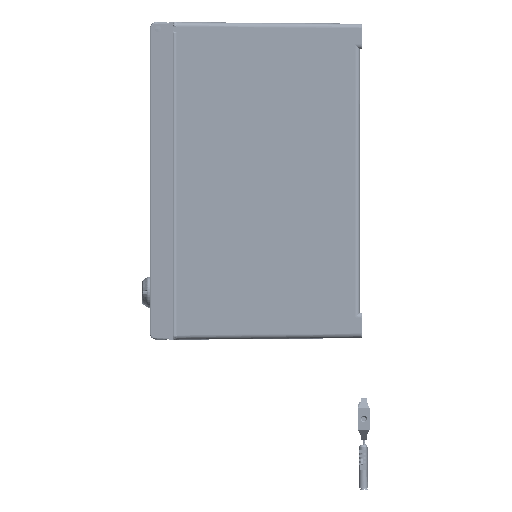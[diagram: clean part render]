
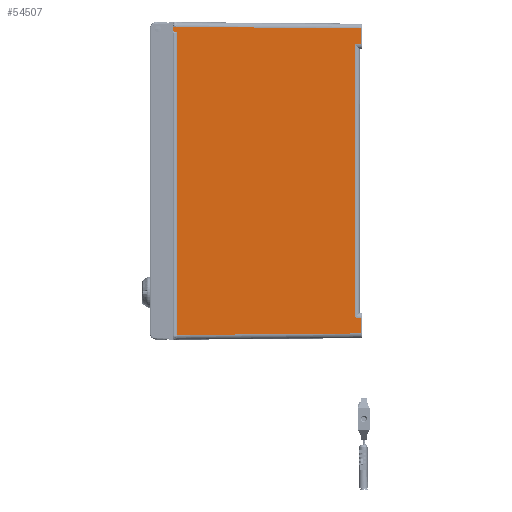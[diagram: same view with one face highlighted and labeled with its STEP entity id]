
A CAD part, left-side view. The second image highlights one B-rep face of the part: STEP entity #54507.
In plain terms, the highlighted planar face has unit normal (-1, -0.018, 0).
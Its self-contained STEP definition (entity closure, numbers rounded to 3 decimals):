
#6030=FACE_OUTER_BOUND('',#9534,.T.);
#9534=EDGE_LOOP('',(#37594,#37595,#37596,#37597,#37598,#37599,#37600,#37601,
#37602,#37603,#37604,#37605));
#13151=B_SPLINE_CURVE_WITH_KNOTS('',3,(#90950,#90951,#90952,#90953,#90954,
#90955,#90956,#90957,#90958,#90959,#90960,#90961,#90962,#90963,#90964,#90965,
#90966,#90967,#90968,#90969,#90970,#90971,#90972,#90973,#90974,#90975,#90976,
#90977,#90978,#90979,#90980,#90981,#90982,#90983,#90984,#90985,#90986,#90987,
#90988,#90989,#90990,#90991,#90992),.UNSPECIFIED.,.F.,.F.,(4,3,3,3,3,3,
3,3,3,3,3,3,3,3,4),(0.,0.071,0.143,0.214,
0.286,0.357,0.429,0.5,0.571,0.643,
0.714,0.786,0.857,0.929,1.),
 .UNSPECIFIED.);
#15609=LINE('',#89324,#19183);
#15629=LINE('',#90945,#19203);
#15630=LINE('',#90948,#19204);
#15631=LINE('',#90994,#19205);
#15632=LINE('',#90996,#19206);
#15633=LINE('',#90998,#19207);
#15634=LINE('',#91000,#19208);
#15635=LINE('',#91002,#19209);
#15636=LINE('',#91003,#19210);
#15637=LINE('',#91005,#19211);
#15638=LINE('',#91006,#19212);
#19183=VECTOR('',#65245,14.936);
#19203=VECTOR('',#65357,4.09);
#19204=VECTOR('',#65360,5.528);
#19205=VECTOR('',#65361,284.949);
#19206=VECTOR('',#65362,173.612);
#19207=VECTOR('',#65363,14.936);
#19208=VECTOR('',#65364,5.441);
#19209=VECTOR('',#65365,257.78);
#19210=VECTOR('',#65366,5.441);
#19211=VECTOR('',#65367,173.618);
#19212=VECTOR('',#65368,9.453);
#22952=VERTEX_POINT('',#89319);
#22953=VERTEX_POINT('',#89323);
#22983=VERTEX_POINT('',#90750);
#22990=VERTEX_POINT('',#90941);
#22991=VERTEX_POINT('',#90947);
#22992=VERTEX_POINT('',#90949);
#22993=VERTEX_POINT('',#90993);
#22994=VERTEX_POINT('',#90995);
#22995=VERTEX_POINT('',#90997);
#22996=VERTEX_POINT('',#90999);
#22997=VERTEX_POINT('',#91001);
#22998=VERTEX_POINT('',#91004);
#28455=EDGE_CURVE('',#22952,#22953,#15609,.T.);
#28520=EDGE_CURVE('',#22983,#22990,#15629,.T.);
#28521=EDGE_CURVE('',#22991,#22990,#15630,.T.);
#28522=EDGE_CURVE('',#22991,#22992,#13151,.T.);
#28523=EDGE_CURVE('',#22992,#22993,#15631,.T.);
#28524=EDGE_CURVE('',#22994,#22993,#15632,.T.);
#28525=EDGE_CURVE('',#22995,#22994,#15633,.T.);
#28526=EDGE_CURVE('',#22995,#22996,#15634,.T.);
#28527=EDGE_CURVE('',#22996,#22997,#15635,.T.);
#28528=EDGE_CURVE('',#22953,#22997,#15636,.T.);
#28529=EDGE_CURVE('',#22998,#22952,#15637,.T.);
#28530=EDGE_CURVE('',#22998,#22983,#15638,.T.);
#37594=ORIENTED_EDGE('',*,*,#28520,.T.);
#37595=ORIENTED_EDGE('',*,*,#28521,.F.);
#37596=ORIENTED_EDGE('',*,*,#28522,.T.);
#37597=ORIENTED_EDGE('',*,*,#28523,.T.);
#37598=ORIENTED_EDGE('',*,*,#28524,.F.);
#37599=ORIENTED_EDGE('',*,*,#28525,.F.);
#37600=ORIENTED_EDGE('',*,*,#28526,.T.);
#37601=ORIENTED_EDGE('',*,*,#28527,.T.);
#37602=ORIENTED_EDGE('',*,*,#28528,.F.);
#37603=ORIENTED_EDGE('',*,*,#28455,.F.);
#37604=ORIENTED_EDGE('',*,*,#28529,.F.);
#37605=ORIENTED_EDGE('',*,*,#28530,.T.);
#53285=PLANE('',#58470);
#54507=ADVANCED_FACE('',(#6030),#53285,.T.);
#58470=AXIS2_PLACEMENT_3D('',#90946,#65358,#65359);
#65245=DIRECTION('',(0.,0.,-1.));
#65357=DIRECTION('',(0.,0.,-1.));
#65358=DIRECTION('center_axis',(-1.,-0.017,
0.));
#65359=DIRECTION('ref_axis',(0.,0.,-1.));
#65360=DIRECTION('',(-0.017,1.,0.017));
#65361=DIRECTION('',(0.,0.,-1.));
#65362=DIRECTION('',(-0.017,1.,-0.009));
#65363=DIRECTION('',(0.,0.,-1.));
#65364=DIRECTION('',(-0.017,1.,0.017));
#65365=DIRECTION('',(0.,0.,1.));
#65366=DIRECTION('',(-0.017,1.,-0.017));
#65367=DIRECTION('',(0.017,-1.,-0.009));
#65368=DIRECTION('',(-0.017,1.,-0.016));
#89319=CARTESIAN_POINT('',(-185.54,-1.017,143.921));
#89323=CARTESIAN_POINT('',(-185.54,-1.017,128.985));
#89324=CARTESIAN_POINT('',(-185.54,-1.017,143.921));
#90750=CARTESIAN_POINT('',(-188.735,182.017,145.3));
#90941=CARTESIAN_POINT('',(-188.735,182.017,141.21));
#90945=CARTESIAN_POINT('',(-188.735,182.017,145.3));
#90946=CARTESIAN_POINT('Origin',(-188.63,176.,-156.));
#90947=CARTESIAN_POINT('',(-188.639,176.491,141.114));
#90948=CARTESIAN_POINT('',(-188.639,176.491,141.114));
#90949=CARTESIAN_POINT('',(-188.57,172.561,139.514));
#90950=CARTESIAN_POINT('Ctrl Pts',(-188.639,176.491,141.114));
#90951=CARTESIAN_POINT('Ctrl Pts',(-188.637,176.38,141.111));
#90952=CARTESIAN_POINT('Ctrl Pts',(-188.635,176.27,141.113));
#90953=CARTESIAN_POINT('Ctrl Pts',(-188.633,176.164,141.115));
#90954=CARTESIAN_POINT('Ctrl Pts',(-188.631,176.058,141.116));
#90955=CARTESIAN_POINT('Ctrl Pts',(-188.629,175.956,141.117));
#90956=CARTESIAN_POINT('Ctrl Pts',(-188.627,175.852,141.116));
#90957=CARTESIAN_POINT('Ctrl Pts',(-188.626,175.749,141.115));
#90958=CARTESIAN_POINT('Ctrl Pts',(-188.624,175.645,141.111));
#90959=CARTESIAN_POINT('Ctrl Pts',(-188.622,175.536,141.105));
#90960=CARTESIAN_POINT('Ctrl Pts',(-188.62,175.428,141.099));
#90961=CARTESIAN_POINT('Ctrl Pts',(-188.618,175.315,141.09));
#90962=CARTESIAN_POINT('Ctrl Pts',(-188.616,175.198,141.076));
#90963=CARTESIAN_POINT('Ctrl Pts',(-188.614,175.08,141.063));
#90964=CARTESIAN_POINT('Ctrl Pts',(-188.612,174.957,141.045));
#90965=CARTESIAN_POINT('Ctrl Pts',(-188.61,174.829,141.023));
#90966=CARTESIAN_POINT('Ctrl Pts',(-188.607,174.702,141.));
#90967=CARTESIAN_POINT('Ctrl Pts',(-188.605,174.571,140.974));
#90968=CARTESIAN_POINT('Ctrl Pts',(-188.603,174.441,140.944));
#90969=CARTESIAN_POINT('Ctrl Pts',(-188.601,174.311,140.914));
#90970=CARTESIAN_POINT('Ctrl Pts',(-188.598,174.183,140.88));
#90971=CARTESIAN_POINT('Ctrl Pts',(-188.596,174.062,140.846));
#90972=CARTESIAN_POINT('Ctrl Pts',(-188.594,173.94,140.812));
#90973=CARTESIAN_POINT('Ctrl Pts',(-188.592,173.827,140.776));
#90974=CARTESIAN_POINT('Ctrl Pts',(-188.59,173.721,140.74));
#90975=CARTESIAN_POINT('Ctrl Pts',(-188.588,173.615,140.703));
#90976=CARTESIAN_POINT('Ctrl Pts',(-188.587,173.517,140.666));
#90977=CARTESIAN_POINT('Ctrl Pts',(-188.585,173.426,140.626));
#90978=CARTESIAN_POINT('Ctrl Pts',(-188.583,173.336,140.586));
#90979=CARTESIAN_POINT('Ctrl Pts',(-188.582,173.253,140.545));
#90980=CARTESIAN_POINT('Ctrl Pts',(-188.581,173.173,140.498));
#90981=CARTESIAN_POINT('Ctrl Pts',(-188.579,173.094,140.451));
#90982=CARTESIAN_POINT('Ctrl Pts',(-188.578,173.018,140.399));
#90983=CARTESIAN_POINT('Ctrl Pts',(-188.577,172.946,140.338));
#90984=CARTESIAN_POINT('Ctrl Pts',(-188.575,172.875,140.276));
#90985=CARTESIAN_POINT('Ctrl Pts',(-188.574,172.808,140.206));
#90986=CARTESIAN_POINT('Ctrl Pts',(-188.573,172.75,140.124));
#90987=CARTESIAN_POINT('Ctrl Pts',(-188.572,172.693,140.042));
#90988=CARTESIAN_POINT('Ctrl Pts',(-188.571,172.645,139.948));
#90989=CARTESIAN_POINT('Ctrl Pts',(-188.571,172.612,139.846));
#90990=CARTESIAN_POINT('Ctrl Pts',(-188.57,172.579,139.744));
#90991=CARTESIAN_POINT('Ctrl Pts',(-188.57,172.561,139.633));
#90992=CARTESIAN_POINT('Ctrl Pts',(-188.57,172.561,139.514));
#90993=CARTESIAN_POINT('',(-188.57,172.561,-145.436));
#90994=CARTESIAN_POINT('',(-188.57,172.561,139.514));
#90995=CARTESIAN_POINT('',(-185.54,-1.017,-143.921));
#90996=CARTESIAN_POINT('',(-185.54,-1.017,-143.921));
#90997=CARTESIAN_POINT('',(-185.54,-1.017,-128.985));
#90998=CARTESIAN_POINT('',(-185.54,-1.017,-128.985));
#90999=CARTESIAN_POINT('',(-185.635,4.421,-128.89));
#91000=CARTESIAN_POINT('',(-185.54,-1.017,-128.985));
#91001=CARTESIAN_POINT('',(-185.635,4.421,128.89));
#91002=CARTESIAN_POINT('',(-185.635,4.421,-128.89));
#91003=CARTESIAN_POINT('',(-185.54,-1.017,128.985));
#91004=CARTESIAN_POINT('',(-188.57,172.567,145.455));
#91005=CARTESIAN_POINT('',(-188.57,172.567,145.455));
#91006=CARTESIAN_POINT('',(-188.57,172.567,145.455));
